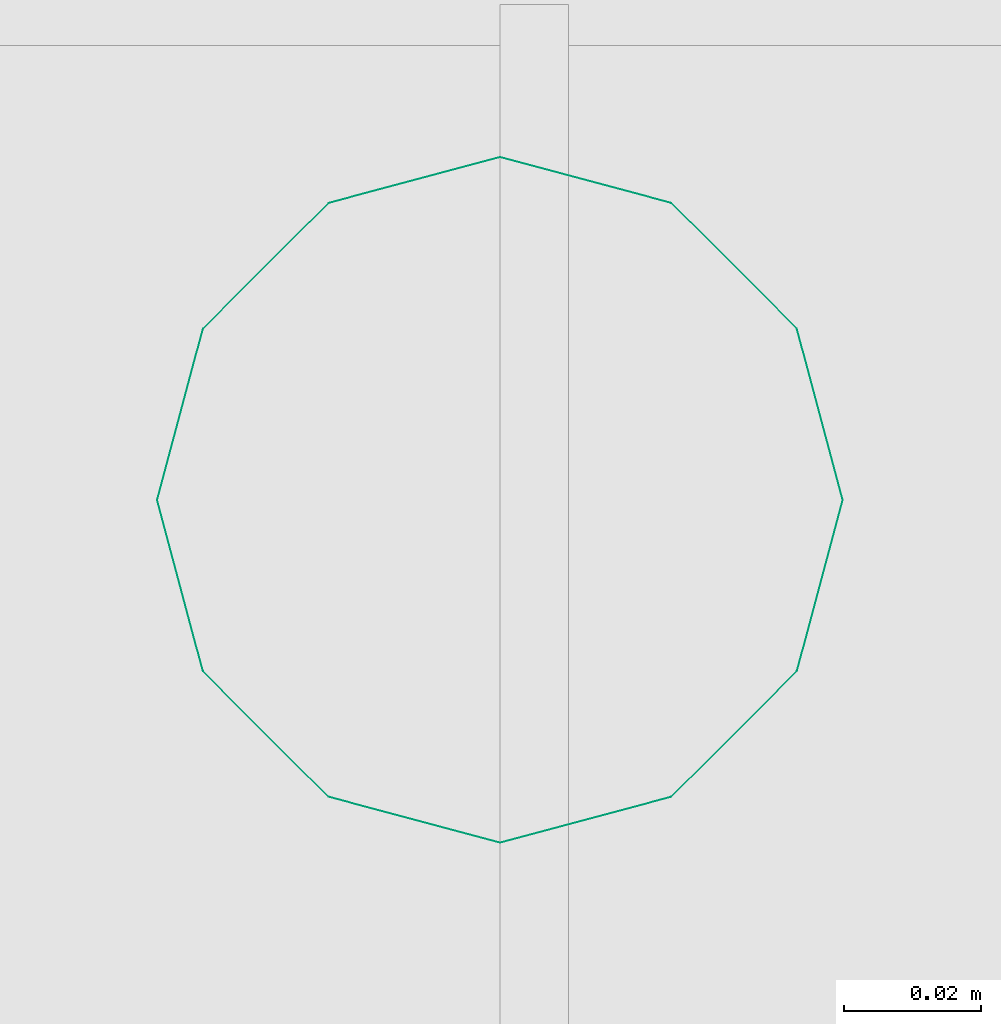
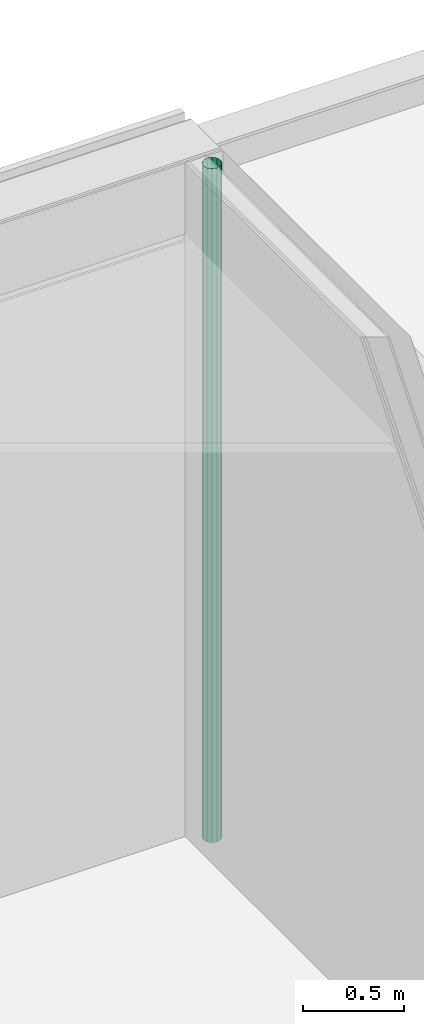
# One storey, part 88 of 94: 1 distribution flow element.
"""IFC2X3 building model written with IfcOpenShell, lengths in millimetres."""

import ifcopenshell
import ifcopenshell.guid

model = None  # the IFC model being written
_history = None  # IfcOwnerHistory: only IFC2X3 demands one
_inside = {}  # id of a spatial element -> (the spatial element, [elements in it])
_under = {}  # id of a project, library or spatial element -> (it, [spatial elements below it])
_declared = {}  # id of a project -> (the project, [libraries it declares])
_typed = {}  # id of a type object -> (the type object, [elements of that type])
_made_of = {}  # id of a material, layer set ... -> (it, [elements and type objects made of it])


def new_model(schema):
    """Start an empty IFC model of exactly this schema.

    Asked for "IFC4X3", IfcOpenShell would pick the latest addendum, in which some entities
    have other attributes; the version numbers below select the first issue.
    IFC2X3 requires an IfcOwnerHistory on every rooted entity: one is made here for all.
    """
    global model, _history
    if schema == "IFC4X3":
        model = ifcopenshell.file(schema_version=(4, 3, 0, 0))
    else:
        model = ifcopenshell.file(schema=schema)
    _inside.clear()
    _under.clear()
    _declared.clear()
    _typed.clear()
    _made_of.clear()
    _history = None
    if model.schema == "IFC2X3":
        org = make("IfcOrganization", Name="unknown")
        user = make(
            "IfcPersonAndOrganization",
            ThePerson=make("IfcPerson", FamilyName="unknown"),
            TheOrganization=org,
        )
        app = make(
            "IfcApplication",
            ApplicationDeveloper=org,
            Version="unknown",
            ApplicationFullName="unknown",
            ApplicationIdentifier="unknown",
        )
        _history = make(
            "IfcOwnerHistory",
            OwningUser=user,
            OwningApplication=app,
            ChangeAction="ADDED",
            CreationDate=0,
        )
    return model


def make(cls, **values):
    """One entity of the class cls with the attributes given. An attribute that is None is left unset."""
    return model.create_entity(
        cls, **{name: value for name, value in values.items() if value is not None}
    )


def entity(cls, *values):
    """Any entity or typed value of the class cls, its attributes in the order of the schema. None: left unset."""
    e = model.create_entity(cls)
    for i, value in enumerate(values):
        if value is not None:
            e[i] = value
    return e


def rooted(cls, **values):
    """An entity with a GlobalId (a new one), such as an element, a storey or a relation."""
    return make(cls, GlobalId=ifcopenshell.guid.new(), OwnerHistory=_history, **values)


def si_unit(unit_type, name, prefix=None):
    """IfcSIUnit, for example si_unit("LENGTHUNIT", "METRE", prefix="MILLI")."""
    return make("IfcSIUnit", UnitType=unit_type, Prefix=prefix, Name=name)


def converted_unit(unit_type, name, factor, base, dimensions=None, offset=None):
    """IfcConversionBasedUnit, such as the inch: factor (a typed value) times the base unit."""
    return make(
        "IfcConversionBasedUnit"
        if offset is None
        else "IfcConversionBasedUnitWithOffset",
        ConversionOffset=offset,
        Dimensions=None
        if dimensions is None
        else entity("IfcDimensionalExponents", *dimensions),
        UnitType=unit_type,
        Name=name,
        ConversionFactor=make(
            "IfcMeasureWithUnit", ValueComponent=factor, UnitComponent=base
        ),
    )


def derived_unit(unit_type, elements):
    """IfcDerivedUnit: a product of units, each with its exponent."""
    return make(
        "IfcDerivedUnit",
        Elements=[
            make("IfcDerivedUnitElement", Unit=unit, Exponent=power)
            for unit, power in elements
        ],
        UnitType=unit_type,
    )


def money_unit(currency):
    """IfcMonetaryUnit."""
    return make("IfcMonetaryUnit", Currency=currency)


def assignment(units):
    """IfcUnitAssignment: the units of a project."""
    return None if units is None else make("IfcUnitAssignment", Units=units)


def point(xyz):
    """IfcCartesianPoint."""
    return None if xyz is None else make("IfcCartesianPoint", Coordinates=xyz)


def direction(xyz):
    """IfcDirection."""
    return None if xyz is None else make("IfcDirection", DirectionRatios=xyz)


def frame(location, z_axis=None, x_axis=None):
    """IfcAxis2Placement3D, a coordinate frame: its origin and axes. An axis left out is left unset."""
    return make(
        "IfcAxis2Placement3D",
        Location=point(location),
        Axis=direction(z_axis),
        RefDirection=direction(x_axis),
    )


def origin_with_axes():
    """The frame at (0, 0, 0) with the z axis (0, 0, 1) and the x axis (1, 0, 0) written out."""
    return frame((0.0, 0.0, 0.0), z_axis=(0.0, 0.0, 1.0), x_axis=(1.0, 0.0, 0.0))


def place(relative_to, where):
    """IfcLocalPlacement: puts the frame where relative to a parent placement (None: the world)."""
    return make(
        "IfcLocalPlacement", PlacementRelTo=relative_to, RelativePlacement=where
    )


def context(
    kind, dimensions, precision=None, world=None, true_north=None, identifier=None
):
    """IfcGeometricRepresentationContext, for example the 3D "Model" context."""
    return make(
        "IfcGeometricRepresentationContext",
        ContextIdentifier=identifier,
        ContextType=kind,
        CoordinateSpaceDimension=dimensions,
        Precision=precision,
        WorldCoordinateSystem=world,
        TrueNorth=true_north,
    )


def subcontext(parent, identifier, kind, view, scale=None):
    """IfcGeometricRepresentationSubContext, for example "Body" below "Model"."""
    return make(
        "IfcGeometricRepresentationSubContext",
        ContextIdentifier=identifier,
        ContextType=kind,
        ParentContext=parent,
        TargetScale=scale,
        TargetView=view,
    )


def project(units=None, contexts=None):
    """IfcProject with its units and contexts."""
    return rooted(
        "IfcProject",
        Name="project",
        RepresentationContexts=contexts,
        UnitsInContext=assignment(units),
    )


def spatial(cls, under=None, at=None, **own):
    """A site, building, storey or space (cls), placed at a placement, below another one or the project."""
    s = rooted(cls, ObjectPlacement=at, **own)
    if under is not None:
        _under.setdefault(under.id(), (under, []))[1].append(s)
    return s


def faces_of(points, faces, orient=None, outer=None):
    """IfcFace entities. A face is a list of loops; a loop is a list of indices into points, from 0.

    orient and outer hold one flag for each loop. By default every Orientation is true, the
    first loop of a face is its IfcFaceOuterBound and the others are IfcFaceBound.
    """
    made = []
    for i, loops in enumerate(faces):
        bounds = []
        for j, loop in enumerate(loops):
            is_outer = j == 0 if outer is None else outer[i][j]
            bounds.append(
                make(
                    "IfcFaceOuterBound" if is_outer else "IfcFaceBound",
                    Bound=make("IfcPolyLoop", Polygon=[points[k] for k in loop]),
                    Orientation=True if orient is None else orient[i][j],
                )
            )
        made.append(make("IfcFace", Bounds=bounds))
    return made


def open_shell(faces, orient=None, outer=None):
    """The faces of one IfcOpenShell. surface_model builds it on its shared points."""
    return ("IfcOpenShell", faces, orient, outer)


def surface_model(cls, points, shells):
    """IfcFaceBasedSurfaceModel or IfcShellBasedSurfaceModel (cls): surfaces that need not close."""
    shared = [point(p) for p in points]
    made = [make(c, CfsFaces=faces_of(shared, fs, o, b)) for c, fs, o, b in shells]
    if cls == "IfcFaceBasedSurfaceModel":
        return make(cls, FbsmFaces=made)
    return make(cls, SbsmBoundary=made)


def shape(context_of_items, identifier, shape_type, items):
    """IfcShapeRepresentation: the items that make up one representation, for example the "Body"."""
    return make(
        "IfcShapeRepresentation",
        ContextOfItems=context_of_items,
        RepresentationIdentifier=identifier,
        RepresentationType=shape_type,
        Items=items,
    )


def made_of(thing, what):
    """Note that an element or type object is made of a material, layer set ...; save() writes the relation."""
    if what is not None:
        _made_of.setdefault(what.id(), (what, []))[1].append(thing)
    return thing


def type_object(cls, material=None, **own):
    """A type object (cls), such as IfcWallType, which elements share."""
    return made_of(rooted(cls, **own), material)


def element(
    cls,
    number,
    at=None,
    inside=None,
    cuts=None,
    type_object=None,
    material=None,
    context=None,
    identifier="Body",
    shape_type=None,
    held_by="IfcProductDefinitionShape",
    body=None,
    shapes=None,
    **own,
):
    """One element of the class cls, such as IfcWall. Its Tag is "e" and its number.

    at: its placement. inside: the storey or other place that contains it. cuts: it is an
    opening in that element (IfcRelVoidsElement). A single representation is given by context,
    identifier, shape_type and body (its items); several are given by shapes. held_by: the class
    of the entity that holds the representations. save() writes the other relations.
    """
    e = rooted(cls, Tag="e%d" % number, ObjectPlacement=at, **own)
    if body is not None:
        shapes = [shape(context, identifier, shape_type, body)]
    if shapes is not None:
        e.Representation = make(held_by, Representations=shapes)
    if inside is not None:
        _inside.setdefault(inside.id(), (inside, []))[1].append(e)
    if cuts is not None:
        rooted(
            "IfcRelVoidsElement", RelatingBuildingElement=cuts, RelatedOpeningElement=e
        )
    if type_object is not None:
        _typed.setdefault(type_object.id(), (type_object, []))[1].append(e)
    return made_of(e, material)


def aggregate(whole, parts):
    """IfcRelAggregates: a whole, such as a stair, and the parts it consists of."""
    return rooted("IfcRelAggregates", RelatingObject=whole, RelatedObjects=parts)


def save(model, path):
    """Write the relations noted so far, then the file.

    IfcRelAggregates (storeys below a building ...), IfcRelContainedInSpatialStructure (elements
    in a storey), IfcRelDefinesByType, IfcRelAssociatesMaterial and IfcRelDeclares: one each for
    every whole, place, type object, material and project.
    """
    for whole, parts in _under.values():
        aggregate(whole, parts)
    for where, things in _inside.values():
        rooted(
            "IfcRelContainedInSpatialStructure",
            RelatedElements=things,
            RelatingStructure=where,
        )
    for kind, things in _typed.values():
        rooted("IfcRelDefinesByType", RelatedObjects=things, RelatingType=kind)
    for what, things in _made_of.values():
        rooted("IfcRelAssociatesMaterial", RelatedObjects=things, RelatingMaterial=what)
    for by, libraries in _declared.values():
        rooted("IfcRelDeclares", RelatingContext=by, RelatedDefinitions=libraries)
    model.write(path)


model = new_model("IFC2X3")

# Units and contexts
model_context = context("Model", 3, precision=0.01, world=origin_with_axes(), true_north=direction((0.0, 1.0)))
body_context = subcontext(model_context, "Body", "Model", "MODEL_VIEW")
ifc_project = project(units=[si_unit("LENGTHUNIT", "METRE", prefix="MILLI"), si_unit("AREAUNIT", "SQUARE_METRE"), si_unit("VOLUMEUNIT", "CUBIC_METRE"), converted_unit("PLANEANGLEUNIT", "DEGREE", entity("IfcPlaneAngleMeasure", 0.0174532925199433), si_unit("PLANEANGLEUNIT", "RADIAN"), dimensions=[0, 0, 0, 0, 0, 0, 0]), money_unit("EUR"), converted_unit("TIMEUNIT", "Year", entity("IfcTimeMeasure", 31557600.0), si_unit("TIMEUNIT", "SECOND"), dimensions=[0, 0, 1, 0, 0, 0, 0]), si_unit("MASSUNIT", "GRAM", prefix="KILO"), si_unit("THERMODYNAMICTEMPERATUREUNIT", "DEGREE_CELSIUS"), si_unit("LUMINOUSINTENSITYUNIT", "LUMEN"), si_unit("ENERGYUNIT", "JOULE", prefix="MEGA"), derived_unit("THERMALCONDUCTANCEUNIT", [(si_unit("POWERUNIT", "WATT"), 1), (si_unit("LENGTHUNIT", "METRE"), -1), (si_unit("THERMODYNAMICTEMPERATUREUNIT", "KELVIN"), -1)]), derived_unit("SPECIFICHEATCAPACITYUNIT", [(si_unit("ENERGYUNIT", "JOULE"), 1), (si_unit("MASSUNIT", "GRAM", prefix="KILO"), -1), (si_unit("THERMODYNAMICTEMPERATUREUNIT", "KELVIN"), -1)]), derived_unit("MASSDENSITYUNIT", [(si_unit("MASSUNIT", "GRAM", prefix="KILO"), 1), (si_unit("VOLUMEUNIT", "CUBIC_METRE"), -1)])], contexts=[model_context])

# Site, building, storey
site_placement = place(None, origin_with_axes())
site = spatial("IfcSite", under=ifc_project, at=site_placement, Name="<site naam>", CompositionType="ELEMENT")
building_placement = place(site_placement, origin_with_axes())
building = spatial("IfcBuilding", under=site, at=building_placement, Name="<Naam gebouw>", CompositionType="ELEMENT")
storey_placement = place(building_placement, frame((0.0, 0.0, 4250.0), z_axis=(0.0, 0.0, 1.0), x_axis=(1.0, 0.0, 0.0)))
storey = spatial("IfcBuildingStorey", under=building, at=storey_placement, Name="01 1e verdieping", CompositionType="ELEMENT", Elevation=4250.0)

# Distribution flow element
valve_type = type_object("IfcValveType", Name="Regenpijp 27", PredefinedType="AIRRELEASE")
distribution_flow_element_placement = place(storey_placement, frame((3900.044468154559, 19841.74999999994, 0.0), z_axis=(0.0, 0.0, 1.0), x_axis=(1.0, 0.0, 0.0)))
element("IfcDistributionFlowElement", 1, at=distribution_flow_element_placement, inside=storey, type_object=valve_type, Name="52_Wasmachine_Lege", context=body_context, shape_type="SurfaceModel", body=[
    surface_model("IfcShellBasedSurfaceModel", [(-50.0, -30.0, 4070.000000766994), (-50.0, -30.0, 0.0), (-43.30127018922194, -54.99999999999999, 0.0), (-43.30127018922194, -54.99999999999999, 4070.000000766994), (-43.30127018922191, -4.999999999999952, 4070.000000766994), (-43.30127018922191, -4.999999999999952, 0.0), (-25.00000000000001, -73.30127018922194, 0.0), (-25.00000000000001, -73.30127018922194, 4070.000000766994), (-24.99999999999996, 13.30127018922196, 4070.000000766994), (-24.99999999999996, 13.30127018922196, 0.0), (0.0, -80.0, 0.0), (0.0, -80.0, 4070.000000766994), (0.0, 20.0, 4070.000000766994), (0.0, 20.0, 0.0), (24.99999999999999, -73.30127018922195, 0.0), (24.99999999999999, -73.30127018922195, 4070.000000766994), (25.00000000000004, 13.30127018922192, 4070.000000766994), (25.00000000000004, 13.30127018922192, 0.0), (43.30127018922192, -55.00000000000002, 0.0), (43.30127018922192, -55.00000000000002, 4070.000000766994), (43.30127018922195, -5.000000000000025, 4070.000000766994), (43.30127018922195, -5.000000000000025, 0.0), (50.0, -30.00000000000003, 0.0), (50.0, -30.00000000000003, 4070.000000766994)], [open_shell([[[0, 1, 2, 3]], [[4, 5, 1, 0]], [[3, 2, 6, 7]], [[8, 9, 5, 4]], [[7, 6, 10, 11]], [[12, 13, 9, 8]], [[11, 10, 14, 15]], [[16, 17, 13, 12]], [[15, 14, 18, 19]], [[20, 21, 17, 16]], [[19, 18, 22, 23]], [[23, 22, 21, 20]]])]),
])

save(model, "model.ifc")
